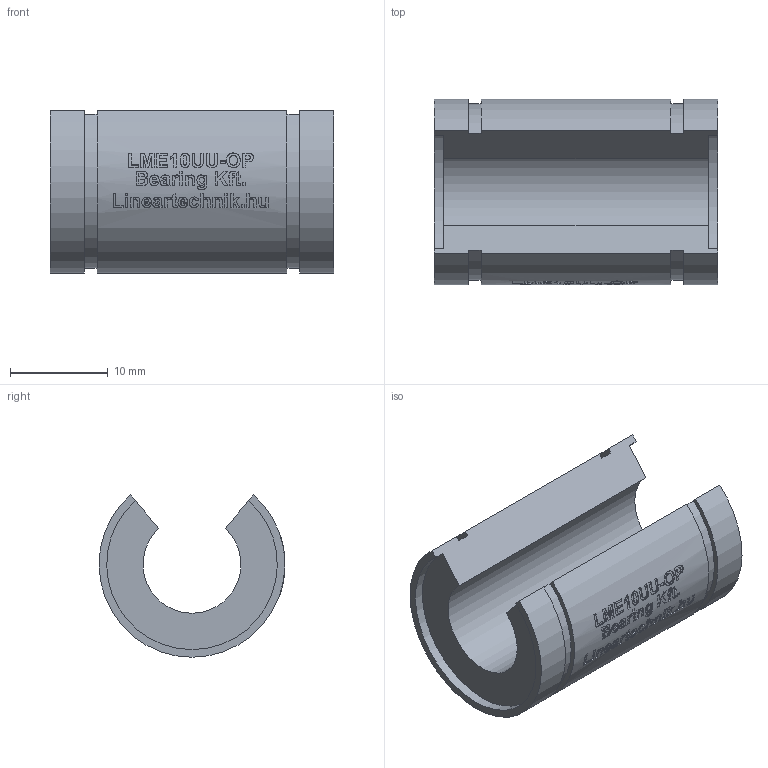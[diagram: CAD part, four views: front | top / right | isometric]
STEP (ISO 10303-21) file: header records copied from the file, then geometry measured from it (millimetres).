
FILE_DESCRIPTION(/* description */ (''),/* implementation_level */ '2;1');
FILE_NAME(/* name */ 'LME10UU-OP',/* time_stamp */ '2019-07-02T16:22:39+02:00',/* author */ ('VĂ©gh MĂˇtĂ©'),/* organization */ ('Bearing Kft'),/* preprocessor_version */ 'ST-DEVELOPER v16.7',/* originating_system */ 'DEX',/* authorisation */ $);
FILE_SCHEMA (('AUTOMOTIVE_DESIGN {1 0 10303 214 3 1 1}'));
Length unit declared in the file: millimetre
Products named in the file (1): LME10UU-OP
Bounding box: 29 x 19 x 16.62 mm (x, y, z)
Volume: 4252.8 mm3; surface area: 2724 mm2
Topology: 1 solids, 1 shells, 335 faces, 847 edges, 565 vertices
Faces by surface type: plane 182, bspline 94, cylinder 59
Entity records: 15868 total; most frequent: CARTESIAN_POINT 8248, ORIENTED_EDGE 1684, DIRECTION 1308, EDGE_CURVE 842, VERTEX_POINT 565, LINE 478, VECTOR 478, AXIS2_PLACEMENT_3D 415
